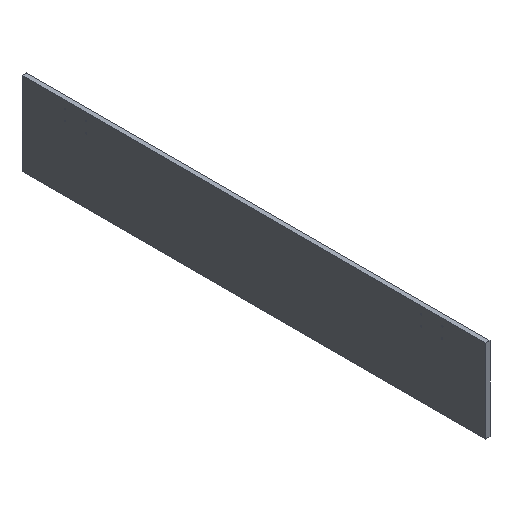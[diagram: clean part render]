
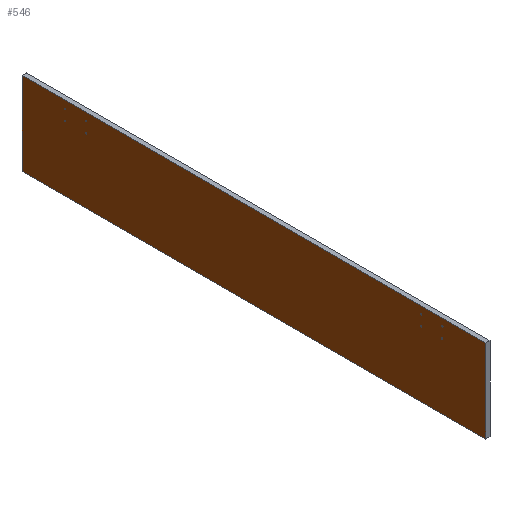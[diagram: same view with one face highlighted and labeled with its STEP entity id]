
A CAD part, isometric view. The second image highlights one B-rep face of the part: STEP entity #546.
In plain terms, the highlighted planar face has unit normal (-1, 0, 0).
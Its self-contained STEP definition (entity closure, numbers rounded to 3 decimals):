
#61=CARTESIAN_POINT('Vertex',(-10.,40.277,173.719)) ;
#66=CARTESIAN_POINT('Axis2P3D Location',(-10.,41.594,173.)) ;
#70=CARTESIAN_POINT('Vertex',(-10.,42.91,172.281)) ;
#92=CARTESIAN_POINT('Axis2P3D Location',(-10.,41.594,173.)) ;
#114=CARTESIAN_POINT('Line Origine',(-10.,-57.406,95.)) ;
#118=CARTESIAN_POINT('Vertex',(-10.,-57.406,190.)) ;
#120=CARTESIAN_POINT('Vertex',(-10.,-57.406,0.)) ;
#154=CARTESIAN_POINT('Line Origine',(-10.,472.594,0.)) ;
#158=CARTESIAN_POINT('Vertex',(-10.,1002.594,0.)) ;
#185=CARTESIAN_POINT('Line Origine',(-10.,1002.594,95.)) ;
#189=CARTESIAN_POINT('Vertex',(-10.,1002.594,190.)) ;
#216=CARTESIAN_POINT('Line Origine',(-10.,472.594,190.)) ;
#242=CARTESIAN_POINT('Vertex',(-10.,88.277,149.719)) ;
#247=CARTESIAN_POINT('Axis2P3D Location',(-10.,89.594,149.)) ;
#251=CARTESIAN_POINT('Vertex',(-10.,90.91,148.281)) ;
#273=CARTESIAN_POINT('Axis2P3D Location',(-10.,89.594,149.)) ;
#299=CARTESIAN_POINT('Vertex',(-10.,40.277,149.719)) ;
#304=CARTESIAN_POINT('Axis2P3D Location',(-10.,41.594,149.)) ;
#308=CARTESIAN_POINT('Vertex',(-10.,42.91,148.281)) ;
#330=CARTESIAN_POINT('Axis2P3D Location',(-10.,41.594,149.)) ;
#356=CARTESIAN_POINT('Vertex',(-10.,88.277,173.719)) ;
#361=CARTESIAN_POINT('Axis2P3D Location',(-10.,89.594,173.)) ;
#365=CARTESIAN_POINT('Vertex',(-10.,90.91,172.281)) ;
#387=CARTESIAN_POINT('Axis2P3D Location',(-10.,89.594,173.)) ;
#413=CARTESIAN_POINT('Vertex',(-10.,902.277,149.719)) ;
#418=CARTESIAN_POINT('Axis2P3D Location',(-10.,903.594,149.)) ;
#422=CARTESIAN_POINT('Vertex',(-10.,904.91,148.281)) ;
#444=CARTESIAN_POINT('Axis2P3D Location',(-10.,903.594,149.)) ;
#461=CARTESIAN_POINT('Axis2P3D Location',(-10.,0.,0.)) ;
#492=CARTESIAN_POINT('Axis2P3D Location',(-10.,855.594,149.)) ;
#496=CARTESIAN_POINT('Vertex',(-10.,854.277,149.719)) ;
#498=CARTESIAN_POINT('Vertex',(-10.,856.91,148.281)) ;
#501=CARTESIAN_POINT('Axis2P3D Location',(-10.,855.594,149.)) ;
#510=CARTESIAN_POINT('Axis2P3D Location',(-10.,903.594,173.)) ;
#514=CARTESIAN_POINT('Vertex',(-10.,902.277,173.719)) ;
#516=CARTESIAN_POINT('Vertex',(-10.,904.91,172.281)) ;
#519=CARTESIAN_POINT('Axis2P3D Location',(-10.,903.594,173.)) ;
#528=CARTESIAN_POINT('Axis2P3D Location',(-10.,855.594,173.)) ;
#532=CARTESIAN_POINT('Vertex',(-10.,854.277,173.719)) ;
#534=CARTESIAN_POINT('Vertex',(-10.,856.91,172.281)) ;
#537=CARTESIAN_POINT('Axis2P3D Location',(-10.,855.594,173.)) ;
#67=DIRECTION('Axis2P3D Direction',(-1.,0.,-0.)) ;
#93=DIRECTION('Axis2P3D Direction',(-1.,0.,-0.)) ;
#115=DIRECTION('Vector Direction',(0.,0.,-1.)) ;
#155=DIRECTION('Vector Direction',(0.,-1.,0.)) ;
#186=DIRECTION('Vector Direction',(0.,0.,1.)) ;
#217=DIRECTION('Vector Direction',(0.,1.,0.)) ;
#248=DIRECTION('Axis2P3D Direction',(-1.,0.,0.)) ;
#274=DIRECTION('Axis2P3D Direction',(-1.,0.,0.)) ;
#305=DIRECTION('Axis2P3D Direction',(-1.,0.,0.)) ;
#331=DIRECTION('Axis2P3D Direction',(-1.,0.,0.)) ;
#362=DIRECTION('Axis2P3D Direction',(-1.,0.,0.)) ;
#388=DIRECTION('Axis2P3D Direction',(-1.,0.,0.)) ;
#419=DIRECTION('Axis2P3D Direction',(-1.,0.,0.)) ;
#445=DIRECTION('Axis2P3D Direction',(-1.,0.,0.)) ;
#462=DIRECTION('Axis2P3D Direction',(1.,0.,0.)) ;
#463=DIRECTION('Axis2P3D XDirection',(0.,1.,0.)) ;
#493=DIRECTION('Axis2P3D Direction',(1.,0.,0.)) ;
#502=DIRECTION('Axis2P3D Direction',(1.,0.,0.)) ;
#511=DIRECTION('Axis2P3D Direction',(1.,0.,0.)) ;
#520=DIRECTION('Axis2P3D Direction',(1.,0.,0.)) ;
#529=DIRECTION('Axis2P3D Direction',(1.,0.,0.)) ;
#538=DIRECTION('Axis2P3D Direction',(1.,0.,0.)) ;
#68=AXIS2_PLACEMENT_3D('Circle Axis2P3D',#66,#67,$) ;
#94=AXIS2_PLACEMENT_3D('Circle Axis2P3D',#92,#93,$) ;
#249=AXIS2_PLACEMENT_3D('Circle Axis2P3D',#247,#248,$) ;
#275=AXIS2_PLACEMENT_3D('Circle Axis2P3D',#273,#274,$) ;
#306=AXIS2_PLACEMENT_3D('Circle Axis2P3D',#304,#305,$) ;
#332=AXIS2_PLACEMENT_3D('Circle Axis2P3D',#330,#331,$) ;
#363=AXIS2_PLACEMENT_3D('Circle Axis2P3D',#361,#362,$) ;
#389=AXIS2_PLACEMENT_3D('Circle Axis2P3D',#387,#388,$) ;
#420=AXIS2_PLACEMENT_3D('Circle Axis2P3D',#418,#419,$) ;
#446=AXIS2_PLACEMENT_3D('Circle Axis2P3D',#444,#445,$) ;
#464=AXIS2_PLACEMENT_3D('Plane Axis2P3D',#461,#462,#463) ;
#494=AXIS2_PLACEMENT_3D('Circle Axis2P3D',#492,#493,$) ;
#503=AXIS2_PLACEMENT_3D('Circle Axis2P3D',#501,#502,$) ;
#512=AXIS2_PLACEMENT_3D('Circle Axis2P3D',#510,#511,$) ;
#521=AXIS2_PLACEMENT_3D('Circle Axis2P3D',#519,#520,$) ;
#530=AXIS2_PLACEMENT_3D('Circle Axis2P3D',#528,#529,$) ;
#539=AXIS2_PLACEMENT_3D('Circle Axis2P3D',#537,#538,$) ;
#467=ORIENTED_EDGE('',*,*,#220,.F.) ;
#468=ORIENTED_EDGE('',*,*,#191,.F.) ;
#469=ORIENTED_EDGE('',*,*,#160,.F.) ;
#470=ORIENTED_EDGE('',*,*,#122,.F.) ;
#473=ORIENTED_EDGE('',*,*,#448,.T.) ;
#474=ORIENTED_EDGE('',*,*,#424,.T.) ;
#477=ORIENTED_EDGE('',*,*,#72,.T.) ;
#478=ORIENTED_EDGE('',*,*,#96,.T.) ;
#481=ORIENTED_EDGE('',*,*,#391,.T.) ;
#482=ORIENTED_EDGE('',*,*,#367,.T.) ;
#485=ORIENTED_EDGE('',*,*,#334,.T.) ;
#486=ORIENTED_EDGE('',*,*,#310,.T.) ;
#489=ORIENTED_EDGE('',*,*,#277,.T.) ;
#490=ORIENTED_EDGE('',*,*,#253,.T.) ;
#507=ORIENTED_EDGE('',*,*,#500,.T.) ;
#508=ORIENTED_EDGE('',*,*,#505,.T.) ;
#525=ORIENTED_EDGE('',*,*,#518,.T.) ;
#526=ORIENTED_EDGE('',*,*,#523,.T.) ;
#543=ORIENTED_EDGE('',*,*,#536,.T.) ;
#544=ORIENTED_EDGE('',*,*,#541,.T.) ;
#475=FACE_BOUND('',#472,.T.) ;
#479=FACE_BOUND('',#476,.T.) ;
#483=FACE_BOUND('',#480,.T.) ;
#487=FACE_BOUND('',#484,.T.) ;
#491=FACE_BOUND('',#488,.T.) ;
#509=FACE_BOUND('',#506,.T.) ;
#527=FACE_BOUND('',#524,.T.) ;
#545=FACE_BOUND('',#542,.T.) ;
#116=VECTOR('Line Direction',#115,1.) ;
#156=VECTOR('Line Direction',#155,1.) ;
#187=VECTOR('Line Direction',#186,1.) ;
#218=VECTOR('Line Direction',#217,1.) ;
#546=ADVANCED_FACE('Corps principal',(#471,#475,#479,#483,#487,#491,#509,#527,#545),#465,.F.) ;
#69=CIRCLE('generated circle',#68,1.5) ;
#95=CIRCLE('generated circle',#94,1.5) ;
#250=CIRCLE('generated circle',#249,1.5) ;
#276=CIRCLE('generated circle',#275,1.5) ;
#307=CIRCLE('generated circle',#306,1.5) ;
#333=CIRCLE('generated circle',#332,1.5) ;
#364=CIRCLE('generated circle',#363,1.5) ;
#390=CIRCLE('generated circle',#389,1.5) ;
#421=CIRCLE('generated circle',#420,1.5) ;
#447=CIRCLE('generated circle',#446,1.5) ;
#495=CIRCLE('generated circle',#494,1.5) ;
#504=CIRCLE('generated circle',#503,1.5) ;
#513=CIRCLE('generated circle',#512,1.5) ;
#522=CIRCLE('generated circle',#521,1.5) ;
#531=CIRCLE('generated circle',#530,1.5) ;
#540=CIRCLE('generated circle',#539,1.5) ;
#72=EDGE_CURVE('',#71,#62,#69,.F.) ;
#96=EDGE_CURVE('',#62,#71,#95,.F.) ;
#122=EDGE_CURVE('',#119,#121,#117,.T.) ;
#160=EDGE_CURVE('',#121,#159,#157,.F.) ;
#191=EDGE_CURVE('',#159,#190,#188,.T.) ;
#220=EDGE_CURVE('',#190,#119,#219,.F.) ;
#253=EDGE_CURVE('',#252,#243,#250,.F.) ;
#277=EDGE_CURVE('',#243,#252,#276,.F.) ;
#310=EDGE_CURVE('',#309,#300,#307,.F.) ;
#334=EDGE_CURVE('',#300,#309,#333,.F.) ;
#367=EDGE_CURVE('',#366,#357,#364,.F.) ;
#391=EDGE_CURVE('',#357,#366,#390,.F.) ;
#424=EDGE_CURVE('',#423,#414,#421,.F.) ;
#448=EDGE_CURVE('',#414,#423,#447,.F.) ;
#500=EDGE_CURVE('',#497,#499,#495,.T.) ;
#505=EDGE_CURVE('',#499,#497,#504,.T.) ;
#518=EDGE_CURVE('',#515,#517,#513,.T.) ;
#523=EDGE_CURVE('',#517,#515,#522,.T.) ;
#536=EDGE_CURVE('',#533,#535,#531,.T.) ;
#541=EDGE_CURVE('',#535,#533,#540,.T.) ;
#466=EDGE_LOOP('',(#467,#468,#469,#470)) ;
#472=EDGE_LOOP('',(#473,#474)) ;
#476=EDGE_LOOP('',(#477,#478)) ;
#480=EDGE_LOOP('',(#481,#482)) ;
#484=EDGE_LOOP('',(#485,#486)) ;
#488=EDGE_LOOP('',(#489,#490)) ;
#506=EDGE_LOOP('',(#507,#508)) ;
#524=EDGE_LOOP('',(#525,#526)) ;
#542=EDGE_LOOP('',(#543,#544)) ;
#471=FACE_OUTER_BOUND('',#466,.T.) ;
#117=LINE('Line',#114,#116) ;
#157=LINE('Line',#154,#156) ;
#188=LINE('Line',#185,#187) ;
#219=LINE('Line',#216,#218) ;
#465=PLANE('Plane',#464) ;
#62=VERTEX_POINT('',#61) ;
#71=VERTEX_POINT('',#70) ;
#119=VERTEX_POINT('',#118) ;
#121=VERTEX_POINT('',#120) ;
#159=VERTEX_POINT('',#158) ;
#190=VERTEX_POINT('',#189) ;
#243=VERTEX_POINT('',#242) ;
#252=VERTEX_POINT('',#251) ;
#300=VERTEX_POINT('',#299) ;
#309=VERTEX_POINT('',#308) ;
#357=VERTEX_POINT('',#356) ;
#366=VERTEX_POINT('',#365) ;
#414=VERTEX_POINT('',#413) ;
#423=VERTEX_POINT('',#422) ;
#497=VERTEX_POINT('',#496) ;
#499=VERTEX_POINT('',#498) ;
#515=VERTEX_POINT('',#514) ;
#517=VERTEX_POINT('',#516) ;
#533=VERTEX_POINT('',#532) ;
#535=VERTEX_POINT('',#534) ;
